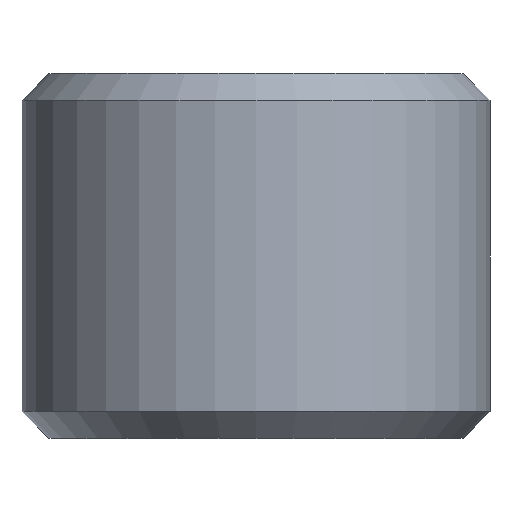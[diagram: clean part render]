
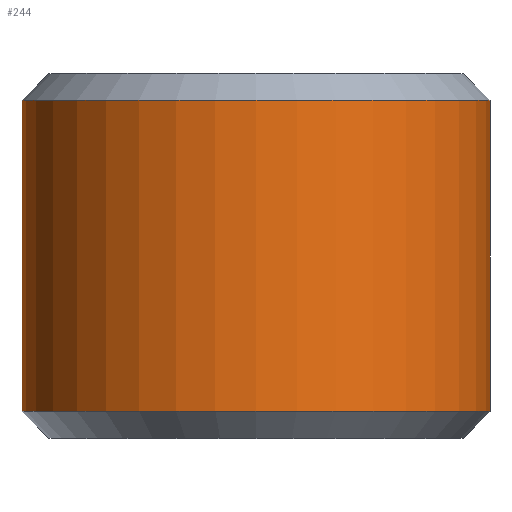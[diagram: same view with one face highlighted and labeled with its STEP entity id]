
A CAD part, top view. The second image highlights one B-rep face of the part: STEP entity #244.
In plain terms, the highlighted cylindrical face has radius 6.516 mm (diameter 13.032 mm), a full revolution.
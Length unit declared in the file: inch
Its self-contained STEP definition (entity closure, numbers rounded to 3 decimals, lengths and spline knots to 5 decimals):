
#16=CYLINDRICAL_SURFACE('',#274,0.25654);
#18=CIRCLE('',#272,0.25654);
#19=CIRCLE('',#273,0.25654);
#20=CIRCLE('',#275,0.25654);
#21=CIRCLE('',#276,0.25654);
#34=FACE_OUTER_BOUND('',#47,.T.);
#47=EDGE_LOOP('',(#193,#194,#195,#196,#197,#198));
#67=LINE('',#425,#83);
#83=VECTOR('',#321,0.267);
#117=VERTEX_POINT('',#418);
#118=VERTEX_POINT('',#420);
#119=VERTEX_POINT('',#424);
#120=VERTEX_POINT('',#426);
#149=EDGE_CURVE('',#117,#118,#18,.F.);
#150=EDGE_CURVE('',#118,#117,#19,.F.);
#151=EDGE_CURVE('',#118,#119,#67,.T.);
#152=EDGE_CURVE('',#120,#119,#20,.F.);
#153=EDGE_CURVE('',#119,#120,#21,.F.);
#193=ORIENTED_EDGE('',*,*,#150,.F.);
#194=ORIENTED_EDGE('',*,*,#151,.T.);
#195=ORIENTED_EDGE('',*,*,#152,.F.);
#196=ORIENTED_EDGE('',*,*,#153,.F.);
#197=ORIENTED_EDGE('',*,*,#151,.F.);
#198=ORIENTED_EDGE('',*,*,#149,.F.);
#244=ADVANCED_FACE('',(#34),#16,.T.);
#272=AXIS2_PLACEMENT_3D('',#421,#315,#316);
#273=AXIS2_PLACEMENT_3D('',#422,#317,#318);
#274=AXIS2_PLACEMENT_3D('',#423,#319,#320);
#275=AXIS2_PLACEMENT_3D('',#427,#322,#323);
#276=AXIS2_PLACEMENT_3D('',#428,#324,#325);
#315=DIRECTION('center_axis',(0.,1.,0.));
#316=DIRECTION('ref_axis',(0.,0.,-1.));
#317=DIRECTION('center_axis',(0.,1.,0.));
#318=DIRECTION('ref_axis',(0.,0.,-1.));
#319=DIRECTION('center_axis',(0.,-1.,0.));
#320=DIRECTION('ref_axis',(0.,0.,-1.));
#321=DIRECTION('',(0.,1.,0.));
#322=DIRECTION('center_axis',(0.,-1.,0.));
#323=DIRECTION('ref_axis',(0.,0.,-1.));
#324=DIRECTION('center_axis',(0.,-1.,0.));
#325=DIRECTION('ref_axis',(0.,0.,-1.));
#418=CARTESIAN_POINT('',(0.,0.02954,-0.25654));
#420=CARTESIAN_POINT('',(0.,0.02954,0.25654));
#421=CARTESIAN_POINT('Origin',(0.,0.02954,0.));
#422=CARTESIAN_POINT('Origin',(0.,0.02954,0.));
#423=CARTESIAN_POINT('Origin',(0.,0.2,0.));
#424=CARTESIAN_POINT('',(0.,0.37046,0.25654));
#425=CARTESIAN_POINT('',(0.,0.2,0.25654));
#426=CARTESIAN_POINT('',(0.,0.37046,-0.25654));
#427=CARTESIAN_POINT('Origin',(0.,0.37046,0.));
#428=CARTESIAN_POINT('Origin',(0.,0.37046,0.));
